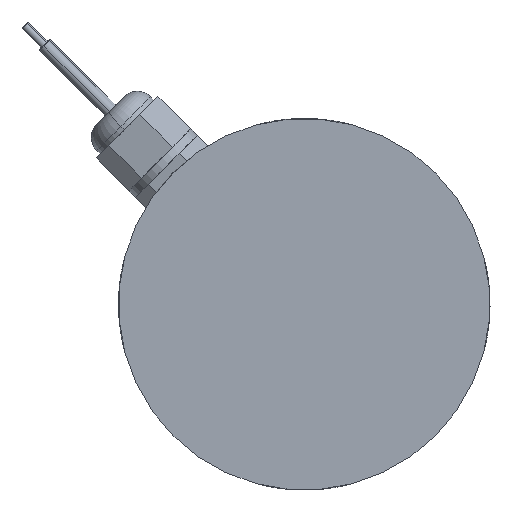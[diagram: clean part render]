
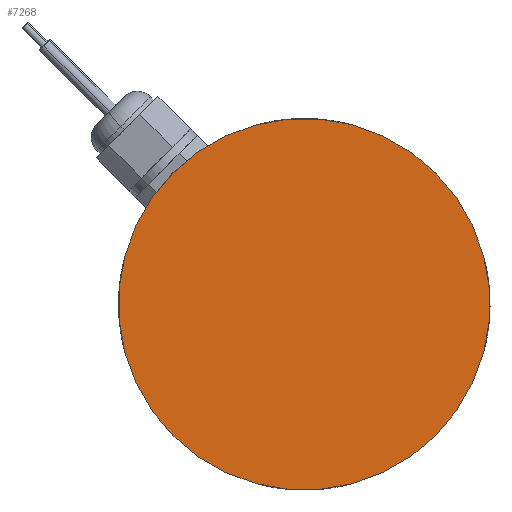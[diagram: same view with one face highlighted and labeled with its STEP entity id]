
A CAD part, left-side view. The second image highlights one B-rep face of the part: STEP entity #7268.
In plain terms, the highlighted planar face has unit normal (-1, 0, 0).
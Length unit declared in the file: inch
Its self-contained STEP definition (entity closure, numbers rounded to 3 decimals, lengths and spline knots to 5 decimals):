
#528 = CARTESIAN_POINT ( 'NONE',  ( -5.22762, 3.5792, 6.79034 ) ) ;
#1470 = EDGE_CURVE ( 'NONE', #3490, #3562, #3092, .T. ) ;
#1593 = EDGE_LOOP ( 'NONE', ( #6419, #2499 ) ) ;
#1848 = DIRECTION ( 'NONE',  ( 0., -0.707, 0.707 ) ) ;
#2137 = AXIS2_PLACEMENT_3D ( 'NONE', #3630, #6339, #5045 ) ;
#2315 = CARTESIAN_POINT ( 'NONE',  ( -5.22762, 4.99341, 5.37612 ) ) ;
#2472 = EDGE_CURVE ( 'NONE', #3562, #3490, #3508, .T. ) ;
#2499 = ORIENTED_EDGE ( 'NONE', *, *, #1470, .F. ) ;
#2835 = CARTESIAN_POINT ( 'NONE',  ( -5.22762, 2.16498, 8.20455 ) ) ;
#3092 = CIRCLE ( 'NONE', #7924, 2. ) ;
#3384 = PLANE ( 'NONE',  #2137 ) ;
#3490 = VERTEX_POINT ( 'NONE', #2835 ) ;
#3508 = CIRCLE ( 'NONE', #4327, 2. ) ;
#3562 = VERTEX_POINT ( 'NONE', #2315 ) ;
#3630 = CARTESIAN_POINT ( 'NONE',  ( -5.22762, 3.5792, 6.79034 ) ) ;
#4327 = AXIS2_PLACEMENT_3D ( 'NONE', #5425, #7352, #4787 ) ;
#4787 = DIRECTION ( 'NONE',  ( 0., -0.707, 0.707 ) ) ;
#5045 = DIRECTION ( 'NONE',  ( 0., -0.707, 0.707 ) ) ;
#5425 = CARTESIAN_POINT ( 'NONE',  ( -5.22762, 3.5792, 6.79034 ) ) ;
#5805 = DIRECTION ( 'NONE',  ( 1., 0., 0. ) ) ;
#6339 = DIRECTION ( 'NONE',  ( 1., 0., 0. ) ) ;
#6419 = ORIENTED_EDGE ( 'NONE', *, *, #2472, .F. ) ;
#7011 = FACE_OUTER_BOUND ( 'NONE', #1593, .T. ) ;
#7268 = ADVANCED_FACE ( 'NONE', ( #7011 ), #3384, .F. ) ;
#7352 = DIRECTION ( 'NONE',  ( 1., 0., 0. ) ) ;
#7924 = AXIS2_PLACEMENT_3D ( 'NONE', #528, #5805, #1848 ) ;
